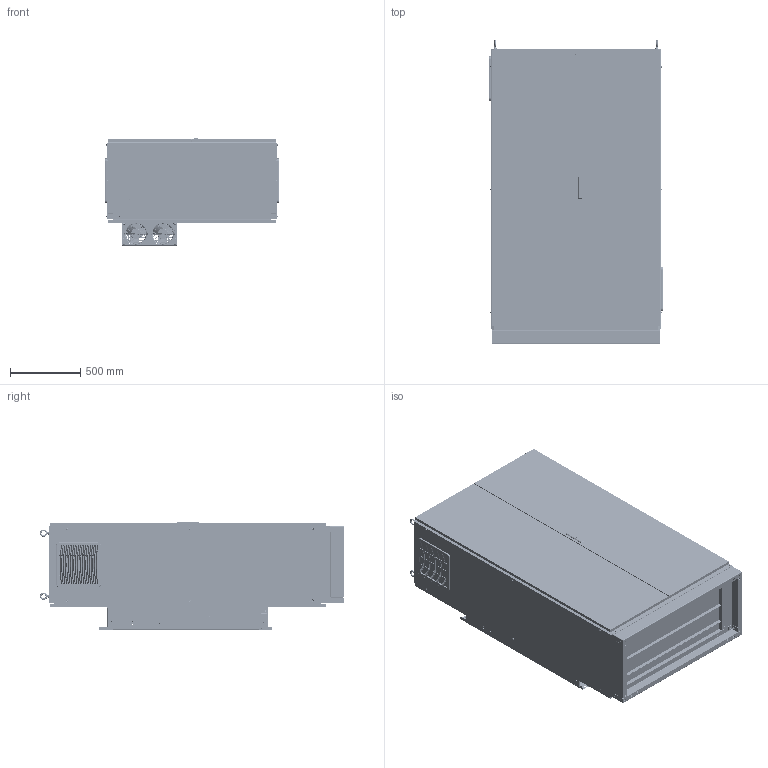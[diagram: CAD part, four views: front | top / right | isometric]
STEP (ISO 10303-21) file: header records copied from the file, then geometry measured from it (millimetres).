
FILE_DESCRIPTION (( 'STEP AP203' ), '1' );
FILE_NAME ('WENCL-N1-834824_GEA_Option_1_Drive_F.STEP', '2019-07-22T15:43:13', ( 'root' ), ( '' ), 'SwSTEP 2.0', 'SolidWorks 2018', '' );
FILE_SCHEMA (( 'CONFIG_CONTROL_DESIGN' ));
Length unit declared in the file: millimetre
Products named in the file (14): WENCL-N1-834824_GLAND_PLATE; 3014T491_STEEL EYEBOLT WITH SHOULDER - FOR LIFTING_3014T491; CFW11 Mec. F; 0396-7020-60-67; WENCL-N1-834824_GEA_Option_1_Drive_F; WEG LOGOS_ Label; 3156-0291-23-01-00; 3156-0291-23-01-00_Without_Fan; 0396-0004-60-00; 0395-1220-60-17; 0395-1220-60-17_Backpanel_Drive_Thru_Cut; 0396-1201-60-17; 0396-7020-60-67_Cutout_Bottom; 0395-1220-60-17_Doors
Assembly tree (16 placements, depth 2):
  WENCL-N1-834824_GEA_Option_1_Drive_F
    0395-1220-60-17
    0396-1201-60-17
    0395-1220-60-17_Doors
    3014T491_STEEL EYEBOLT WITH SHOULDER - FOR LIFTING_3014T491  x4
    0396-7020-60-67
    WEG LOGOS_ Label
    3156-0291-23-01-00
    3156-0291-23-01-00_Without_Fan
    0396-0004-60-00
    0395-1220-60-17_Backpanel_Drive_Thru_Cut
    0396-7020-60-67_Cutout_Bottom
    WENCL-N1-834824_GLAND_PLATE
    CFW11 Mec. F
Bounding box: 1237 x 2168.18 x 774.85 mm (x, y, z)
Volume: 50237903.6 mm3; surface area: 44671180.7 mm2
Topology: 271 solids, 275 shells, 26649 faces, 73036 edges, 47789 vertices
Faces by surface type: plane 15462, cylinder 6249, bspline 2225, cone 1795, torus 712, sphere 206
Full cylindrical faces by diameter (mm): 1 x18, 1.5 x3, 2 x36, 2.959 x2, 3 x3, 3.2 x32, 3.5 x4, 4 x24, 4.2 x16, 5 x52, 5.1 x4, 5.2 x4, 5.5 x24, 6 x80, 6.2 x24, 6.6 x2, 7 x16, 7.2 x2, 7.68 x4, 7.7 x2, 8 x54, 8.2 x42, 8.4 x10, 8.5 x2, 8.9 x8, 10 x4, 11 x6, 11.3 x70, 11.5 x5, 20 x2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
Entity records: 986352 total; most frequent: CARTESIAN_POINT 322712, ORIENTED_EDGE 141752, DIRECTION 126951, EDGE_CURVE 70876, VERTEX_POINT 47144, VECTOR 43443, LINE 43443, AXIS2_PLACEMENT_3D 41754
